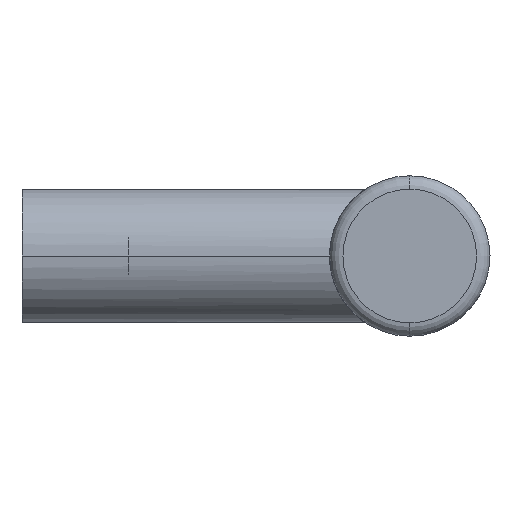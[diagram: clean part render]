
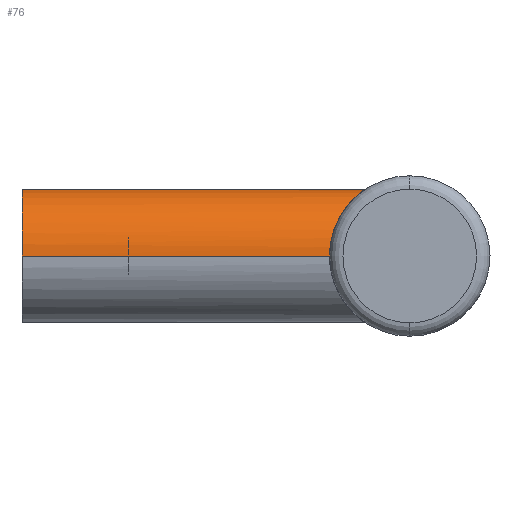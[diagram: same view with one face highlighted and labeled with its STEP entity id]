
A CAD part, left-side view. The second image highlights one B-rep face of the part: STEP entity #76.
In plain terms, the highlighted cylindrical face has radius 5 mm (diameter 10 mm), a partial arc.
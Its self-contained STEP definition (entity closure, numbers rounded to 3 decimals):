
#76 = ADVANCED_FACE( '', ( #98 ), #99, .T. );
#98 = FACE_OUTER_BOUND( '', #142, .T. );
#99 = CYLINDRICAL_SURFACE( '', #143, 5. );
#142 = EDGE_LOOP( '', ( #192, #193, #194, #195, #196 ) );
#143 = AXIS2_PLACEMENT_3D( '', #197, #198, #199 );
#192 = ORIENTED_EDGE( '', *, *, #337, .F. );
#193 = ORIENTED_EDGE( '', *, *, #338, .F. );
#194 = ORIENTED_EDGE( '', *, *, #339, .F. );
#195 = ORIENTED_EDGE( '', *, *, #340, .F. );
#196 = ORIENTED_EDGE( '', *, *, #341, .F. );
#197 = CARTESIAN_POINT( '', ( 0., 0., 0. ) );
#198 = DIRECTION( '', ( 0., 1., 0. ) );
#199 = DIRECTION( '', ( 1., 0., 0. ) );
#337 = EDGE_CURVE( '', #386, #387, #388, .T. );
#338 = EDGE_CURVE( '', #389, #386, #390, .T. );
#339 = EDGE_CURVE( '', #391, #389, #392, .T. );
#340 = EDGE_CURVE( '', #393, #391, #394, .T. );
#341 = EDGE_CURVE( '', #387, #393, #395, .T. );
#386 = VERTEX_POINT( '', #496 );
#387 = VERTEX_POINT( '', #497 );
#388 = LINE( '', #498, #499 );
#389 = VERTEX_POINT( '', #500 );
#390 = CIRCLE( '', #501, 5. );
#391 = VERTEX_POINT( '', #502 );
#392 = LINE( '', #503, #504 );
#393 = VERTEX_POINT( '', #505 );
#394 = B_SPLINE_CURVE_WITH_KNOTS( '', 3, ( #506, #507, #508, #509, #510, #511, #512, #513, #514, #515, #516, #517, #518, #519, #520, #521, #522, #523 ), .UNSPECIFIED., .F., .F., ( 4, 2, 2, 2, 2, 2, 2, 2, 4 ), ( 0., 1.041, 2.083, 3.124, 4.165, 5.164, 6.163, 7.162, 8.161 ), .UNSPECIFIED. );
#395 = B_SPLINE_CURVE_WITH_KNOTS( '', 3, ( #524, #525, #526, #527, #528, #529, #530, #531, #532, #533, #534, #535, #536, #537, #538, #539, #540, #541 ), .UNSPECIFIED., .F., .F., ( 4, 2, 2, 2, 2, 2, 2, 2, 4 ), ( 24.483, 25.482, 26.481, 27.479, 28.478, 29.52, 30.561, 31.602, 32.643 ), .UNSPECIFIED. );
#496 = CARTESIAN_POINT( '', ( 5., 0., 0. ) );
#497 = CARTESIAN_POINT( '', ( 5., -23., 0. ) );
#498 = CARTESIAN_POINT( '', ( 5., 0., 0. ) );
#499 = VECTOR( '', #673, 1. );
#500 = CARTESIAN_POINT( '', ( -5., 0., 0. ) );
#501 = AXIS2_PLACEMENT_3D( '', #674, #675, #676 );
#502 = CARTESIAN_POINT( '', ( -5., -23., 0. ) );
#503 = CARTESIAN_POINT( '', ( -5., 0., 0. ) );
#504 = VECTOR( '', #677, 1. );
#505 = CARTESIAN_POINT( '', ( 0., -25.683, 5. ) );
#506 = CARTESIAN_POINT( '', ( 0., -25.683, 5. ) );
#507 = CARTESIAN_POINT( '', ( -0.347, -25.683, 5. ) );
#508 = CARTESIAN_POINT( '', ( -0.687, -25.627, 4.964 ) );
#509 = CARTESIAN_POINT( '', ( -1.343, -25.436, 4.828 ) );
#510 = CARTESIAN_POINT( '', ( -1.659, -25.301, 4.728 ) );
#511 = CARTESIAN_POINT( '', ( -2.259, -24.995, 4.472 ) );
#512 = CARTESIAN_POINT( '', ( -2.544, -24.825, 4.316 ) );
#513 = CARTESIAN_POINT( '', ( -3.073, -24.483, 3.957 ) );
#514 = CARTESIAN_POINT( '', ( -3.317, -24.311, 3.754 ) );
#515 = CARTESIAN_POINT( '', ( -3.745, -24., 3.326 ) );
#516 = CARTESIAN_POINT( '', ( -3.946, -23.847, 3.088 ) );
#517 = CARTESIAN_POINT( '', ( -4.306, -23.566, 2.561 ) );
#518 = CARTESIAN_POINT( '', ( -4.467, -23.437, 2.272 ) );
#519 = CARTESIAN_POINT( '', ( -4.728, -23.225, 1.659 ) );
#520 = CARTESIAN_POINT( '', ( -4.83, -23.141, 1.335 ) );
#521 = CARTESIAN_POINT( '', ( -4.966, -23.028, 0.672 ) );
#522 = CARTESIAN_POINT( '', ( -5., -23., 0.333 ) );
#523 = CARTESIAN_POINT( '', ( -5., -23., 0. ) );
#524 = CARTESIAN_POINT( '', ( 5., -23., 0. ) );
#525 = CARTESIAN_POINT( '', ( 5., -23., 0.333 ) );
#526 = CARTESIAN_POINT( '', ( 4.966, -23.028, 0.672 ) );
#527 = CARTESIAN_POINT( '', ( 4.83, -23.141, 1.335 ) );
#528 = CARTESIAN_POINT( '', ( 4.728, -23.225, 1.659 ) );
#529 = CARTESIAN_POINT( '', ( 4.467, -23.437, 2.272 ) );
#530 = CARTESIAN_POINT( '', ( 4.306, -23.566, 2.561 ) );
#531 = CARTESIAN_POINT( '', ( 3.946, -23.847, 3.088 ) );
#532 = CARTESIAN_POINT( '', ( 3.745, -24., 3.326 ) );
#533 = CARTESIAN_POINT( '', ( 3.317, -24.311, 3.754 ) );
#534 = CARTESIAN_POINT( '', ( 3.073, -24.483, 3.957 ) );
#535 = CARTESIAN_POINT( '', ( 2.544, -24.825, 4.316 ) );
#536 = CARTESIAN_POINT( '', ( 2.259, -24.995, 4.472 ) );
#537 = CARTESIAN_POINT( '', ( 1.659, -25.301, 4.728 ) );
#538 = CARTESIAN_POINT( '', ( 1.343, -25.436, 4.828 ) );
#539 = CARTESIAN_POINT( '', ( 0.687, -25.627, 4.964 ) );
#540 = CARTESIAN_POINT( '', ( 0.347, -25.683, 5. ) );
#541 = CARTESIAN_POINT( '', ( 0., -25.683, 5. ) );
#673 = DIRECTION( '', ( 0., -1., 0. ) );
#674 = CARTESIAN_POINT( '', ( 0., 0., 0. ) );
#675 = DIRECTION( '', ( 0., 1., 0. ) );
#676 = DIRECTION( '', ( 1., 0., 0. ) );
#677 = DIRECTION( '', ( 0., 1., 0. ) );
